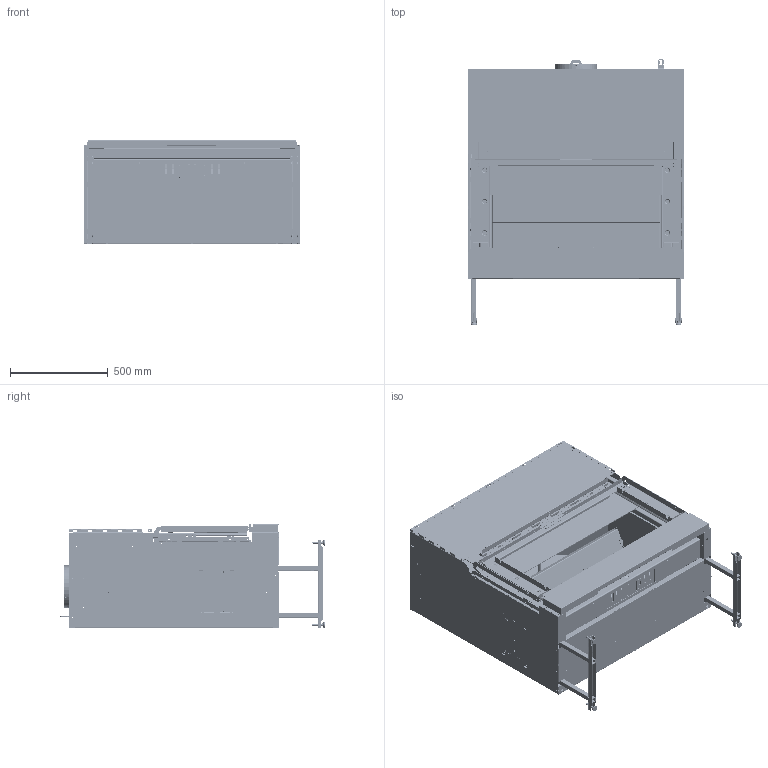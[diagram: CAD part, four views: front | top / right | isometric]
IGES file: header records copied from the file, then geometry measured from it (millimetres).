
Start section:  PTC IGES file: enveloppe_22110_400.igs
Global section: file name: enveloppe_22110_400.igs; native system: Creo Parametric by Parametric Technology Corporation; preprocessor: 2014090; author: dch; organization: Unknown; date: 20150608.104014; units: millimetre
Bounding box: 1108.6 x 1357.1 x 533.6 mm (x, y, z)
Volume: 45704656.1 mm3; surface area: 18467751 mm2
Topology: 25 solids, 25 shells, 13462 faces, 36249 edges, 22955 vertices
Faces by surface type: bspline 10138, revolution 3322, extrusion 2
